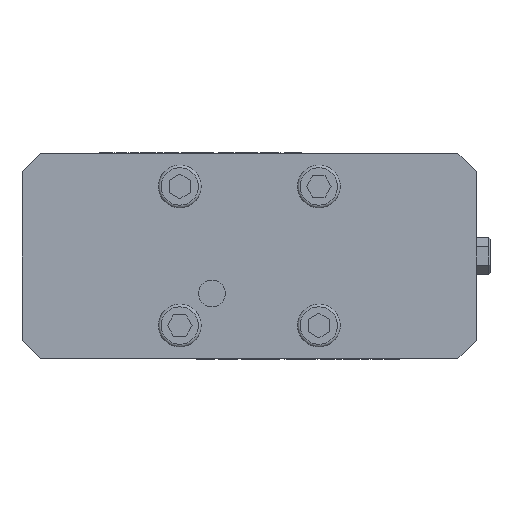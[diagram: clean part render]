
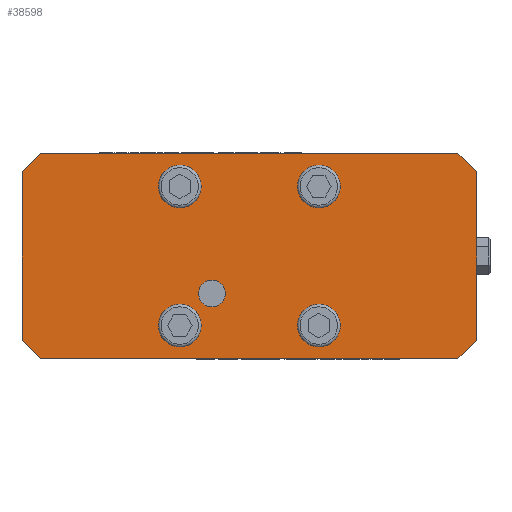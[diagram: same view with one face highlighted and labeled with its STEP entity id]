
A CAD part, front view. The second image highlights one B-rep face of the part: STEP entity #38598.
In plain terms, the highlighted planar face has unit normal (0, -1, 0).
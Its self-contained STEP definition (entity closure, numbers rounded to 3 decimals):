
#339 = VERTEX_POINT ( 'NONE', #12103 ) ;
#596 = FACE_BOUND ( 'NONE', #14978, .T. ) ;
#993 = AXIS2_PLACEMENT_3D ( 'NONE', #35590, #46167, #31820 ) ;
#1091 = EDGE_CURVE ( 'NONE', #45719, #45719, #26412, .T. ) ;
#1102 = VERTEX_POINT ( 'NONE', #8735 ) ;
#1358 = EDGE_CURVE ( 'NONE', #31606, #31606, #7809, .T. ) ;
#1609 = CARTESIAN_POINT ( 'NONE',  ( 85., 0., -38.5 ) ) ;
#2288 = CARTESIAN_POINT ( 'NONE',  ( -20., 0., -26. ) ) ;
#2531 = CARTESIAN_POINT ( 'NONE',  ( -85., 0., -38.5 ) ) ;
#3196 = ORIENTED_EDGE ( 'NONE', *, *, #25768, .T. ) ;
#3474 = CIRCLE ( 'NONE', #46162, 6. ) ;
#3549 = DIRECTION ( 'NONE',  ( -0.707, 0., 0.707 ) ) ;
#3639 = ORIENTED_EDGE ( 'NONE', *, *, #41727, .F. ) ;
#3990 = ORIENTED_EDGE ( 'NONE', *, *, #27694, .T. ) ;
#4419 = VERTEX_POINT ( 'NONE', #27893 ) ;
#4504 = VERTEX_POINT ( 'NONE', #14868 ) ;
#5405 = ORIENTED_EDGE ( 'NONE', *, *, #39305, .T. ) ;
#5979 = ORIENTED_EDGE ( 'NONE', *, *, #1091, .F. ) ;
#6372 = EDGE_CURVE ( 'NONE', #339, #16686, #43402, .T. ) ;
#6923 = EDGE_CURVE ( 'NONE', #11929, #11929, #3474, .T. ) ;
#7200 = EDGE_CURVE ( 'NONE', #1102, #35437, #15267, .T. ) ;
#7217 = FACE_BOUND ( 'NONE', #31415, .T. ) ;
#7809 = CIRCLE ( 'NONE', #993, 6. ) ;
#7908 = CARTESIAN_POINT ( 'NONE',  ( -85., 0., 31.5 ) ) ;
#8558 = AXIS2_PLACEMENT_3D ( 'NONE', #11744, #44314, #40771 ) ;
#8735 = CARTESIAN_POINT ( 'NONE',  ( -85., 0., -31.5 ) ) ;
#8843 = VERTEX_POINT ( 'NONE', #15210 ) ;
#10039 = CARTESIAN_POINT ( 'NONE',  ( -26., 0., -26. ) ) ;
#10174 = EDGE_CURVE ( 'NONE', #43046, #1102, #13344, .T. ) ;
#11082 = DIRECTION ( 'NONE',  ( 1., 0., 0. ) ) ;
#11218 = VERTEX_POINT ( 'NONE', #36967 ) ;
#11744 = CARTESIAN_POINT ( 'NONE',  ( 26., 0., 26. ) ) ;
#11766 = VECTOR ( 'NONE', #29313, 1000. ) ;
#11804 = EDGE_CURVE ( 'NONE', #11218, #11218, #13439, .T. ) ;
#11861 = EDGE_LOOP ( 'NONE', ( #42114 ) ) ;
#11929 = VERTEX_POINT ( 'NONE', #36032 ) ;
#12103 = CARTESIAN_POINT ( 'NONE',  ( 85., 0., 31.5 ) ) ;
#12422 = ORIENTED_EDGE ( 'NONE', *, *, #20566, .T. ) ;
#12567 = VECTOR ( 'NONE', #26877, 1000. ) ;
#12996 = ORIENTED_EDGE ( 'NONE', *, *, #7200, .T. ) ;
#13344 = LINE ( 'NONE', #2531, #12567 ) ;
#13439 = CIRCLE ( 'NONE', #19354, 5. ) ;
#14868 = CARTESIAN_POINT ( 'NONE',  ( 78., 0., -38.5 ) ) ;
#14870 = ORIENTED_EDGE ( 'NONE', *, *, #6923, .F. ) ;
#14978 = EDGE_LOOP ( 'NONE', ( #3639 ) ) ;
#15093 = AXIS2_PLACEMENT_3D ( 'NONE', #21432, #32467, #32008 ) ;
#15210 = CARTESIAN_POINT ( 'NONE',  ( -78., 0., 38.5 ) ) ;
#15224 = ORIENTED_EDGE ( 'NONE', *, *, #10174, .T. ) ;
#15267 = LINE ( 'NONE', #29545, #11766 ) ;
#16223 = ORIENTED_EDGE ( 'NONE', *, *, #6372, .F. ) ;
#16686 = VERTEX_POINT ( 'NONE', #32738 ) ;
#17341 = VECTOR ( 'NONE', #39892, 1000. ) ;
#17680 = LINE ( 'NONE', #21168, #40501 ) ;
#17981 = DIRECTION ( 'NONE',  ( 0., 0., -1. ) ) ;
#18175 = FACE_BOUND ( 'NONE', #41642, .T. ) ;
#18273 = LINE ( 'NONE', #28342, #25570 ) ;
#18361 = CIRCLE ( 'NONE', #37113, 6. ) ;
#19354 = AXIS2_PLACEMENT_3D ( 'NONE', #24929, #21682, #17981 ) ;
#20566 = EDGE_CURVE ( 'NONE', #4504, #16686, #41952, .T. ) ;
#20900 = CARTESIAN_POINT ( 'NONE',  ( 85., 0., -38.5 ) ) ;
#21005 = CARTESIAN_POINT ( 'NONE',  ( 26., 0., -26. ) ) ;
#21168 = CARTESIAN_POINT ( 'NONE',  ( -78., 0., 38.5 ) ) ;
#21292 = VECTOR ( 'NONE', #23793, 1000. ) ;
#21432 = CARTESIAN_POINT ( 'NONE',  ( 85., 0., -38.5 ) ) ;
#21682 = DIRECTION ( 'NONE',  ( 0., -1., 0. ) ) ;
#22045 = CARTESIAN_POINT ( 'NONE',  ( 85., 0., -31.5 ) ) ;
#23793 = DIRECTION ( 'NONE',  ( -1., 0., 0. ) ) ;
#24929 = CARTESIAN_POINT ( 'NONE',  ( -14., 0., -14. ) ) ;
#25024 = CARTESIAN_POINT ( 'NONE',  ( 85., 0., 31.5 ) ) ;
#25373 = FACE_BOUND ( 'NONE', #25929, .T. ) ;
#25570 = VECTOR ( 'NONE', #42661, 1000. ) ;
#25768 = EDGE_CURVE ( 'NONE', #339, #4419, #32356, .T. ) ;
#25929 = EDGE_LOOP ( 'NONE', ( #5979 ) ) ;
#26412 = CIRCLE ( 'NONE', #8558, 6. ) ;
#26877 = DIRECTION ( 'NONE',  ( 0., 0., -1. ) ) ;
#27694 = EDGE_CURVE ( 'NONE', #8843, #43046, #17680, .T. ) ;
#27893 = CARTESIAN_POINT ( 'NONE',  ( 78., 0., 38.5 ) ) ;
#28072 = CARTESIAN_POINT ( 'NONE',  ( 20., 0., 26. ) ) ;
#28342 = CARTESIAN_POINT ( 'NONE',  ( 85., 0., 38.5 ) ) ;
#28900 = DIRECTION ( 'NONE',  ( -0.707, 0., -0.707 ) ) ;
#29313 = DIRECTION ( 'NONE',  ( 0.707, 0., -0.707 ) ) ;
#29545 = CARTESIAN_POINT ( 'NONE',  ( -78., 0., -38.5 ) ) ;
#30649 = LINE ( 'NONE', #1609, #21292 ) ;
#31415 = EDGE_LOOP ( 'NONE', ( #40308 ) ) ;
#31606 = VERTEX_POINT ( 'NONE', #38642 ) ;
#31820 = DIRECTION ( 'NONE',  ( 0., 0., -1. ) ) ;
#32008 = DIRECTION ( 'NONE',  ( 0., 0., 1. ) ) ;
#32356 = LINE ( 'NONE', #25024, #39599 ) ;
#32369 = DIRECTION ( 'NONE',  ( 0., 0., -1. ) ) ;
#32467 = DIRECTION ( 'NONE',  ( 0., 1., 0. ) ) ;
#32477 = EDGE_LOOP ( 'NONE', ( #5405, #3990, #15224, #12996, #44302, #12422, #16223, #3196 ) ) ;
#32704 = FACE_BOUND ( 'NONE', #11861, .T. ) ;
#32738 = CARTESIAN_POINT ( 'NONE',  ( 85., 0., -31.5 ) ) ;
#35393 = CARTESIAN_POINT ( 'NONE',  ( -78., 0., -38.5 ) ) ;
#35437 = VERTEX_POINT ( 'NONE', #35393 ) ;
#35581 = EDGE_CURVE ( 'NONE', #4504, #35437, #30649, .T. ) ;
#35590 = CARTESIAN_POINT ( 'NONE',  ( -26., 0., 26. ) ) ;
#36032 = CARTESIAN_POINT ( 'NONE',  ( 26., 0., -20. ) ) ;
#36967 = CARTESIAN_POINT ( 'NONE',  ( -14., 0., -19. ) ) ;
#37113 = AXIS2_PLACEMENT_3D ( 'NONE', #10039, #42948, #11082 ) ;
#37424 = VERTEX_POINT ( 'NONE', #2288 ) ;
#38598 = ADVANCED_FACE ( 'NONE', ( #7217, #25373, #18175, #596, #32704, #39721 ), #46355, .F. ) ;
#38614 = DIRECTION ( 'NONE',  ( 0., -1., 0. ) ) ;
#38642 = CARTESIAN_POINT ( 'NONE',  ( -26., 0., 20. ) ) ;
#39305 = EDGE_CURVE ( 'NONE', #4419, #8843, #18273, .T. ) ;
#39599 = VECTOR ( 'NONE', #3549, 1000. ) ;
#39721 = FACE_OUTER_BOUND ( 'NONE', #32477, .T. ) ;
#39892 = DIRECTION ( 'NONE',  ( 0.707, 0., 0.707 ) ) ;
#40081 = VECTOR ( 'NONE', #32369, 1000. ) ;
#40308 = ORIENTED_EDGE ( 'NONE', *, *, #11804, .F. ) ;
#40501 = VECTOR ( 'NONE', #28900, 1000. ) ;
#40771 = DIRECTION ( 'NONE',  ( -1., 0., 0. ) ) ;
#41642 = EDGE_LOOP ( 'NONE', ( #14870 ) ) ;
#41727 = EDGE_CURVE ( 'NONE', #37424, #37424, #18361, .T. ) ;
#41952 = LINE ( 'NONE', #22045, #17341 ) ;
#42114 = ORIENTED_EDGE ( 'NONE', *, *, #1358, .F. ) ;
#42661 = DIRECTION ( 'NONE',  ( -1., 0., 0. ) ) ;
#42948 = DIRECTION ( 'NONE',  ( 0., -1., 0. ) ) ;
#43046 = VERTEX_POINT ( 'NONE', #7908 ) ;
#43048 = DIRECTION ( 'NONE',  ( 0., 0., 1. ) ) ;
#43402 = LINE ( 'NONE', #20900, #40081 ) ;
#44302 = ORIENTED_EDGE ( 'NONE', *, *, #35581, .F. ) ;
#44314 = DIRECTION ( 'NONE',  ( 0., -1., 0. ) ) ;
#45719 = VERTEX_POINT ( 'NONE', #28072 ) ;
#46162 = AXIS2_PLACEMENT_3D ( 'NONE', #21005, #38614, #43048 ) ;
#46167 = DIRECTION ( 'NONE',  ( 0., -1., 0. ) ) ;
#46355 = PLANE ( 'NONE',  #15093 ) ;
